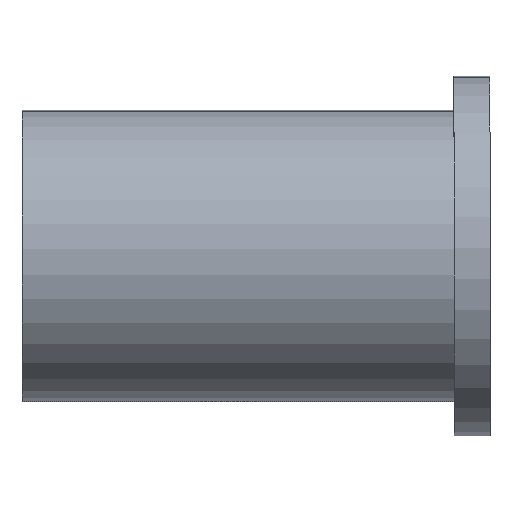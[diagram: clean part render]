
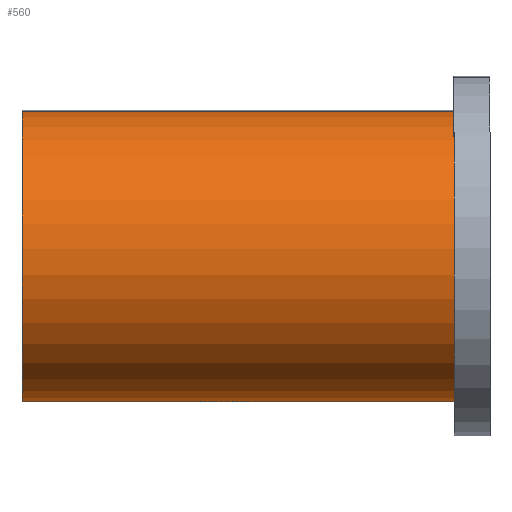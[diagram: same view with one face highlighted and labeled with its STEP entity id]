
A CAD part, top view. The second image highlights one B-rep face of the part: STEP entity #560.
In plain terms, the highlighted cylindrical face has radius 8.1 mm (diameter 16.2 mm), a partial arc.
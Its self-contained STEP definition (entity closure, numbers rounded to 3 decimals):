
#60=CARTESIAN_POINT('',(53.5,-8.378,
0.));
#70=DIRECTION('',(1.,0.,0.));
#80=VECTOR('',#70,1.);
#90=LINE('',#60,#80);
#100=CARTESIAN_POINT('',(29.5,-8.378,
0.));
#110=VERTEX_POINT('',#100);
#120=CARTESIAN_POINT('',(53.5,-8.378,
0.));
#130=VERTEX_POINT('',#120);
#140=EDGE_CURVE('',#110,#130,#90,.T.);
#160=CARTESIAN_POINT('',(53.5,-0.278,0.));
#170=DIRECTION('',(1.,0.,0.));
#180=DIRECTION('',(0.,1.,0.));
#190=AXIS2_PLACEMENT_3D('',#160,#170,#180);
#200=CIRCLE('',#190,8.1);
#210=CARTESIAN_POINT('',(53.5,7.822,0.));
#220=VERTEX_POINT('',#210);
#250=CARTESIAN_POINT('',(53.5,7.822,0.));
#260=DIRECTION('',(1.,0.,0.));
#270=VECTOR('',#260,1.);
#280=LINE('',#250,#270);
#290=CARTESIAN_POINT('',(29.5,7.822,0.));
#300=VERTEX_POINT('',#290);
#310=EDGE_CURVE('',#300,#220,#280,.T.);
#330=CARTESIAN_POINT('',(29.5,-0.278,0.));
#340=DIRECTION('',(1.,0.,0.));
#350=DIRECTION('',(0.,1.,0.));
#360=AXIS2_PLACEMENT_3D('',#330,#340,#350);
#370=CIRCLE('',#360,8.1);
#430=CARTESIAN_POINT('',(53.5,-0.278,0.));
#440=DIRECTION('',(1.,0.,0.));
#450=DIRECTION('',(0.,1.,0.));
#460=AXIS2_PLACEMENT_3D('',#430,#440,#450);
#470=CYLINDRICAL_SURFACE('',#460,8.1);
#480=EDGE_CURVE('',#220,#130,#200,.T.);
#490=ORIENTED_EDGE('',*,*,#480,.F.);
#500=ORIENTED_EDGE('',*,*,#140,.T.);
#510=EDGE_CURVE('',#300,#110,#370,.T.);
#520=ORIENTED_EDGE('',*,*,#510,.T.);
#530=ORIENTED_EDGE('',*,*,#310,.F.);
#540=EDGE_LOOP('',(#530,#520,#500,#490));
#550=FACE_OUTER_BOUND('',#540,.T.);
#560=ADVANCED_FACE('',(#550),#470,.T.);
